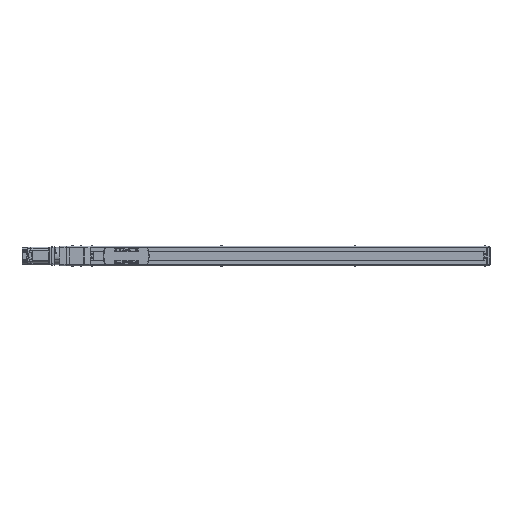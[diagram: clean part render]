
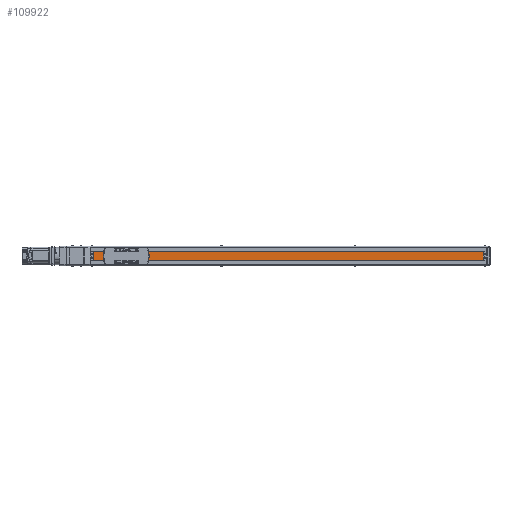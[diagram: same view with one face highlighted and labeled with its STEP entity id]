
A CAD part, top view. The second image highlights one B-rep face of the part: STEP entity #109922.
In plain terms, the highlighted planar face has unit normal (0, 0, 1) as drawn and (0, 1, 0) by its records, which use the part's own axes.
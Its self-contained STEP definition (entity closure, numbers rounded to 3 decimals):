
#109922 = ADVANCED_FACE('',(#109923),#109937,.T.);
#109923 = FACE_BOUND('',#109924,.T.);
#109924 = EDGE_LOOP('',(#109925,#109960,#109988,#110016));
#109925 = ORIENTED_EDGE('',*,*,#109926,.F.);
#109926 = EDGE_CURVE('',#109927,#109929,#109931,.T.);
#109927 = VERTEX_POINT('',#109928);
#109928 = CARTESIAN_POINT('',(-1280.5,18.,-13.));
#109929 = VERTEX_POINT('',#109930);
#109930 = CARTESIAN_POINT('',(-21.5,18.,-13.));
#109931 = SURFACE_CURVE('',#109932,(#109936,#109948),.PCURVE_S1.);
#109932 = LINE('',#109933,#109934);
#109933 = CARTESIAN_POINT('',(-1280.5,18.,-13.));
#109934 = VECTOR('',#109935,1.);
#109935 = DIRECTION('',(1.,0.,0.));
#109936 = PCURVE('',#109937,#109942);
#109937 = PLANE('',#109938);
#109938 = AXIS2_PLACEMENT_3D('',#109939,#109940,#109941);
#109939 = CARTESIAN_POINT('',(-1290.5,18.,-26.583));
#109940 = DIRECTION('',(0.,1.,0.));
#109941 = DIRECTION('',(0.,-0.,1.));
#109942 = DEFINITIONAL_REPRESENTATION('',(#109943),#109947);
#109943 = LINE('',#109944,#109945);
#109944 = CARTESIAN_POINT('',(13.583,10.));
#109945 = VECTOR('',#109946,1.);
#109946 = DIRECTION('',(0.,1.));
#109947 = ( GEOMETRIC_REPRESENTATION_CONTEXT(2) 
PARAMETRIC_REPRESENTATION_CONTEXT() REPRESENTATION_CONTEXT('2D SPACE',''
  ) );
#109948 = PCURVE('',#109949,#109954);
#109949 = PLANE('',#109950);
#109950 = AXIS2_PLACEMENT_3D('',#109951,#109952,#109953);
#109951 = CARTESIAN_POINT('',(-1280.5,18.,-13.));
#109952 = DIRECTION('',(0.,0.,1.));
#109953 = DIRECTION('',(1.,0.,-0.));
#109954 = DEFINITIONAL_REPRESENTATION('',(#109955),#109959);
#109955 = LINE('',#109956,#109957);
#109956 = CARTESIAN_POINT('',(0.,0.));
#109957 = VECTOR('',#109958,1.);
#109958 = DIRECTION('',(1.,0.));
#109959 = ( GEOMETRIC_REPRESENTATION_CONTEXT(2) 
PARAMETRIC_REPRESENTATION_CONTEXT() REPRESENTATION_CONTEXT('2D SPACE',''
  ) );
#109960 = ORIENTED_EDGE('',*,*,#109961,.T.);
#109961 = EDGE_CURVE('',#109927,#109962,#109964,.T.);
#109962 = VERTEX_POINT('',#109963);
#109963 = CARTESIAN_POINT('',(-1280.5,18.,13.));
#109964 = SURFACE_CURVE('',#109965,(#109969,#109976),.PCURVE_S1.);
#109965 = LINE('',#109966,#109967);
#109966 = CARTESIAN_POINT('',(-1280.5,18.,-26.583));
#109967 = VECTOR('',#109968,1.);
#109968 = DIRECTION('',(0.,0.,1.));
#109969 = PCURVE('',#109937,#109970);
#109970 = DEFINITIONAL_REPRESENTATION('',(#109971),#109975);
#109971 = LINE('',#109972,#109973);
#109972 = CARTESIAN_POINT('',(0.,10.));
#109973 = VECTOR('',#109974,1.);
#109974 = DIRECTION('',(1.,0.));
#109975 = ( GEOMETRIC_REPRESENTATION_CONTEXT(2) 
PARAMETRIC_REPRESENTATION_CONTEXT() REPRESENTATION_CONTEXT('2D SPACE',''
  ) );
#109976 = PCURVE('',#109977,#109982);
#109977 = PLANE('',#109978);
#109978 = AXIS2_PLACEMENT_3D('',#109979,#109980,#109981);
#109979 = CARTESIAN_POINT('',(-1280.5,0.,0.));
#109980 = DIRECTION('',(1.,0.,0.));
#109981 = DIRECTION('',(0.,0.,-1.));
#109982 = DEFINITIONAL_REPRESENTATION('',(#109983),#109987);
#109983 = LINE('',#109984,#109985);
#109984 = CARTESIAN_POINT('',(26.583,18.));
#109985 = VECTOR('',#109986,1.);
#109986 = DIRECTION('',(-1.,0.));
#109987 = ( GEOMETRIC_REPRESENTATION_CONTEXT(2) 
PARAMETRIC_REPRESENTATION_CONTEXT() REPRESENTATION_CONTEXT('2D SPACE',''
  ) );
#109988 = ORIENTED_EDGE('',*,*,#109989,.T.);
#109989 = EDGE_CURVE('',#109962,#109990,#109992,.T.);
#109990 = VERTEX_POINT('',#109991);
#109991 = CARTESIAN_POINT('',(-21.5,18.,13.));
#109992 = SURFACE_CURVE('',#109993,(#109997,#110004),.PCURVE_S1.);
#109993 = LINE('',#109994,#109995);
#109994 = CARTESIAN_POINT('',(-1280.5,18.,13.));
#109995 = VECTOR('',#109996,1.);
#109996 = DIRECTION('',(1.,0.,0.));
#109997 = PCURVE('',#109937,#109998);
#109998 = DEFINITIONAL_REPRESENTATION('',(#109999),#110003);
#109999 = LINE('',#110000,#110001);
#110000 = CARTESIAN_POINT('',(39.583,10.));
#110001 = VECTOR('',#110002,1.);
#110002 = DIRECTION('',(0.,1.));
#110003 = ( GEOMETRIC_REPRESENTATION_CONTEXT(2) 
PARAMETRIC_REPRESENTATION_CONTEXT() REPRESENTATION_CONTEXT('2D SPACE',''
  ) );
#110004 = PCURVE('',#110005,#110010);
#110005 = PLANE('',#110006);
#110006 = AXIS2_PLACEMENT_3D('',#110007,#110008,#110009);
#110007 = CARTESIAN_POINT('',(-1280.5,15.,13.));
#110008 = DIRECTION('',(0.,0.,-1.));
#110009 = DIRECTION('',(-1.,0.,0.));
#110010 = DEFINITIONAL_REPRESENTATION('',(#110011),#110015);
#110011 = LINE('',#110012,#110013);
#110012 = CARTESIAN_POINT('',(0.,3.));
#110013 = VECTOR('',#110014,1.);
#110014 = DIRECTION('',(-1.,0.));
#110015 = ( GEOMETRIC_REPRESENTATION_CONTEXT(2) 
PARAMETRIC_REPRESENTATION_CONTEXT() REPRESENTATION_CONTEXT('2D SPACE',''
  ) );
#110016 = ORIENTED_EDGE('',*,*,#110017,.T.);
#110017 = EDGE_CURVE('',#109990,#109929,#110018,.T.);
#110018 = SURFACE_CURVE('',#110019,(#110023,#110030),.PCURVE_S1.);
#110019 = LINE('',#110020,#110021);
#110020 = CARTESIAN_POINT('',(-21.5,18.,-26.583));
#110021 = VECTOR('',#110022,1.);
#110022 = DIRECTION('',(0.,0.,-1.));
#110023 = PCURVE('',#109937,#110024);
#110024 = DEFINITIONAL_REPRESENTATION('',(#110025),#110029);
#110025 = LINE('',#110026,#110027);
#110026 = CARTESIAN_POINT('',(0.,1269.));
#110027 = VECTOR('',#110028,1.);
#110028 = DIRECTION('',(-1.,0.));
#110029 = ( GEOMETRIC_REPRESENTATION_CONTEXT(2) 
PARAMETRIC_REPRESENTATION_CONTEXT() REPRESENTATION_CONTEXT('2D SPACE',''
  ) );
#110030 = PCURVE('',#110031,#110036);
#110031 = PLANE('',#110032);
#110032 = AXIS2_PLACEMENT_3D('',#110033,#110034,#110035);
#110033 = CARTESIAN_POINT('',(-21.5,0.,0.));
#110034 = DIRECTION('',(1.,0.,0.));
#110035 = DIRECTION('',(0.,0.,-1.));
#110036 = DEFINITIONAL_REPRESENTATION('',(#110037),#110041);
#110037 = LINE('',#110038,#110039);
#110038 = CARTESIAN_POINT('',(26.583,18.));
#110039 = VECTOR('',#110040,1.);
#110040 = DIRECTION('',(1.,0.));
#110041 = ( GEOMETRIC_REPRESENTATION_CONTEXT(2) 
PARAMETRIC_REPRESENTATION_CONTEXT() REPRESENTATION_CONTEXT('2D SPACE',''
  ) );
